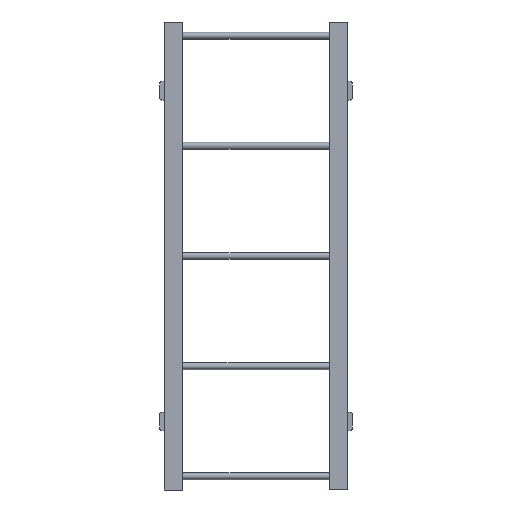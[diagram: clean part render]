
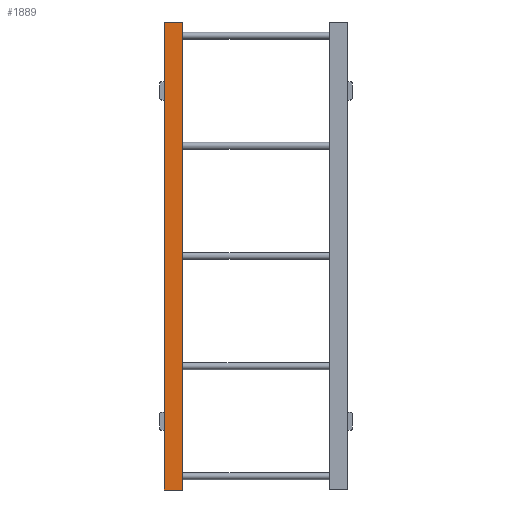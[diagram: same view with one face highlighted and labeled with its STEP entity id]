
A CAD part, left-side view. The second image highlights one B-rep face of the part: STEP entity #1889.
In plain terms, the highlighted planar face has unit normal (-1, 0, 0).
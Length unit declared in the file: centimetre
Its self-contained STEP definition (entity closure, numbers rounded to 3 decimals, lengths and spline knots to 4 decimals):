
#68=LINE('',#2900,#222);
#70=LINE('',#2908,#224);
#72=LINE('',#2912,#226);
#73=LINE('',#2914,#227);
#74=LINE('',#2916,#228);
#75=LINE('',#2917,#229);
#222=VECTOR('',#2354,0.0025);
#224=VECTOR('',#2362,0.0127);
#226=VECTOR('',#2366,129.5375);
#227=VECTOR('',#2367,5.08);
#228=VECTOR('',#2368,129.54);
#229=VECTOR('',#2369,5.0673);
#351=PLANE('',#2036);
#474=FACE_OUTER_BOUND('',#591,.T.);
#591=EDGE_LOOP('',(#1370,#1371,#1372,#1373,#1374,#1375));
#849=VERTEX_POINT('',#2898);
#850=VERTEX_POINT('',#2899);
#853=VERTEX_POINT('',#2907);
#854=VERTEX_POINT('',#2911);
#855=VERTEX_POINT('',#2913);
#856=VERTEX_POINT('',#2915);
#1048=EDGE_CURVE('',#849,#850,#68,.T.);
#1052=EDGE_CURVE('',#850,#853,#70,.T.);
#1054=EDGE_CURVE('',#853,#854,#72,.T.);
#1055=EDGE_CURVE('',#854,#855,#73,.T.);
#1056=EDGE_CURVE('',#856,#855,#74,.T.);
#1057=EDGE_CURVE('',#849,#856,#75,.T.);
#1370=ORIENTED_EDGE('',*,*,#1048,.T.);
#1371=ORIENTED_EDGE('',*,*,#1052,.T.);
#1372=ORIENTED_EDGE('',*,*,#1054,.T.);
#1373=ORIENTED_EDGE('',*,*,#1055,.T.);
#1374=ORIENTED_EDGE('',*,*,#1056,.F.);
#1375=ORIENTED_EDGE('',*,*,#1057,.F.);
#1889=ADVANCED_FACE('',(#474),#351,.T.);
#2036=AXIS2_PLACEMENT_3D('',#2910,#2364,#2365);
#2354=DIRECTION('',(0.,0.,1.));
#2362=DIRECTION('',(0.,-1.,0.));
#2364=DIRECTION('center_axis',(-1.,0.,0.));
#2365=DIRECTION('ref_axis',(0.,0.,1.));
#2366=DIRECTION('',(0.,0.,1.));
#2367=DIRECTION('',(0.,1.,0.));
#2368=DIRECTION('',(0.,0.,1.));
#2369=DIRECTION('',(0.,1.,0.));
#2898=CARTESIAN_POINT('',(0.,0.0127,0.));
#2899=CARTESIAN_POINT('',(0.,0.0127,0.0025));
#2900=CARTESIAN_POINT('',(0.,0.0127,0.));
#2907=CARTESIAN_POINT('',(0.,0.,0.0025));
#2908=CARTESIAN_POINT('',(0.,0.,0.0025));
#2910=CARTESIAN_POINT('Origin',(0.,0.,
0.));
#2911=CARTESIAN_POINT('',(0.,0.,129.54));
#2912=CARTESIAN_POINT('',(0.,0.,0.));
#2913=CARTESIAN_POINT('',(0.,5.08,129.54));
#2914=CARTESIAN_POINT('',(0.,0.,129.54));
#2915=CARTESIAN_POINT('',(0.,5.08,0.));
#2916=CARTESIAN_POINT('',(0.,5.08,0.));
#2917=CARTESIAN_POINT('',(0.,0.,0.));
